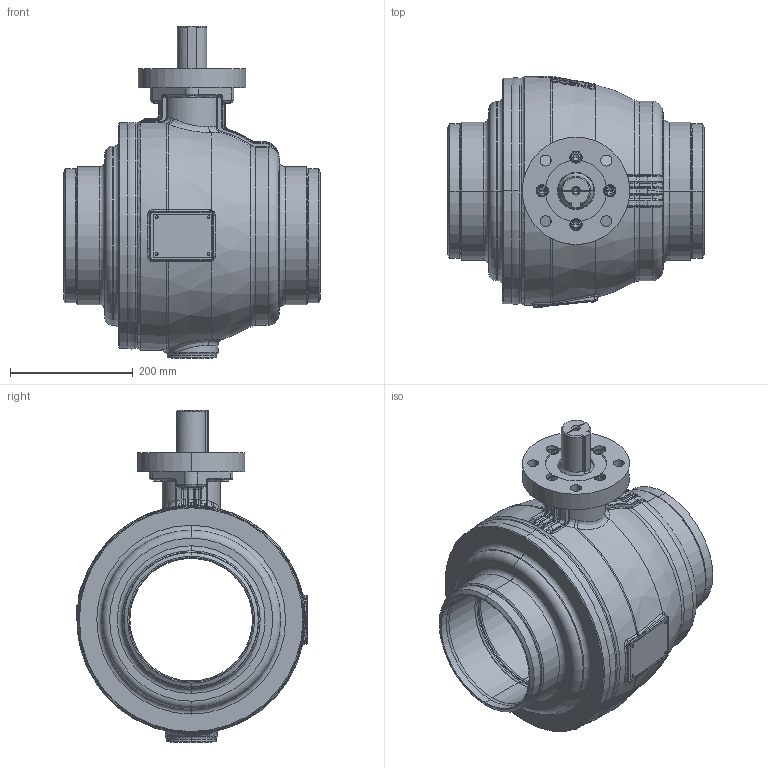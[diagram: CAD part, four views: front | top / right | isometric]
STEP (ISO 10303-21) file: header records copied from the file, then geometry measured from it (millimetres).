
FILE_DESCRIPTION((''),'2;1');
FILE_NAME('KHSVI_200_VVS-FG_FR_WE_F14','2026-01-27T14:10:43',('schwaba'),('KLINGER'),'CREO PARAMETRIC BY PTC INC, 2023014','CREO PARAMETRIC BY PTC INC, 2023014','');
FILE_SCHEMA(('CONFIG_CONTROL_DESIGN'));
Products named in the file (1): KHSVI_200_VVS-FG_FR_WE_F14
Bounding box: 419 x 378.11 x 541.54 mm (x, y, z)
Volume: 12485477.3 mm3; surface area: 1850153 mm2
Topology: 1 solids, 3 shells, 1491 faces, 3746 edges, 2295 vertices
Faces by surface type: plane 622, cylinder 328, bspline 220, torus 184, cone 118, sphere 19
Entity records: 93110 total; most frequent: CARTESIAN_POINT 59811, ORIENTED_EDGE 7456, DIRECTION 6352, EDGE_CURVE 3728, AXIS2_PLACEMENT_3D 2606, VERTEX_POINT 2295, EDGE_LOOP 1591, FACE_OUTER_BOUND 1491
